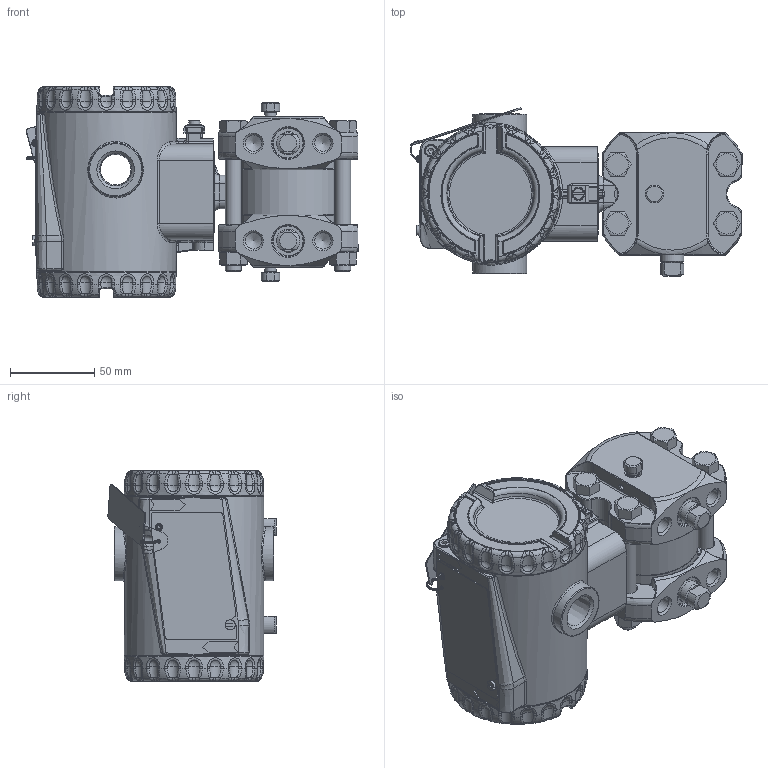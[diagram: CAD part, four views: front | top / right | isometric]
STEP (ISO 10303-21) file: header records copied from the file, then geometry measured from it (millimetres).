
FILE_DESCRIPTION(/* description */ (''),/* implementation_level */ '2;1');
FILE_NAME(/* name */ 'F:\Area\Desenvolvimento_2\Projects\Sensor\projetos\LD400-3d\dimensionais 3D clientes\LD400H5 1-4NPT monel purga acima.stp',/* time_stamp */ '2023-02-02T11:49:55-03:00',/* author */ ('inventor02'),/* organization */ (''),/* preprocessor_version */ 'ST-DEVELOPER v17',/* originating_system */ 'Autodesk Inventor 2019',/* authorisation */ '');
FILE_SCHEMA (('CONFIG_CONTROL_DESIGN'));
Products named in the file (29): LD400H5 1-4NPT monel purga acima; Carcaça 400 com tampas e plaqueta sem letras; 101-D-0845-05 carcaça LD400 sem letras; 101-B-3614-03-tampa 400 sem letras; Tampa visor 400 montada sem letras; 101-B-3612-05 tampa visor 400 sem letras; 101-A-6107; oring 2034; 00034775-0; WHW_250; DIN 915 - M6 x 10; Chapa aterramento externo; 201-A-1771-02 inserto terra recartilhado; AS 1969 - ST4,2; ISO 1207 - M4 x 8; ANSI B18.3.1M - M4x0,7 x 8; Subconjunto plaqueta 400; plaqueta 400 em branco; Parafuso da Plaqueta; Rebite da Plaqueta; 096-A-0169-03; 101-A-0502-01; diferencial FX5 monel purga acima; involucro fx5 apos a usinagem final; bujao 1-4NPT; 081-C-0500-10 monel barra 7-16 purga M8; Paraf. 3-8 x 16 UNC; Porca 3-8 x 16 UNC; Sangria
Assembly tree (38 placements, depth 4):
  LD400H5 1-4NPT monel purga acima
    Carcaça 400 com tampas e plaqueta sem letras
      101-D-0845-05 carcaça LD400 sem letras
      101-B-3614-03-tampa 400 sem letras
      Tampa visor 400 montada sem letras
        101-B-3612-05 tampa visor 400 sem letras
        101-A-6107
        oring 2034
        00034775-0
        WHW_250
      DIN 915 - M6 x 10
      Chapa aterramento externo
      201-A-1771-02 inserto terra recartilhado
      AS 1969 - ST4,2
      ISO 1207 - M4 x 8
      ANSI B18.3.1M - M4x0,7 x 8  x2
      Subconjunto plaqueta 400
        plaqueta 400 em branco
        Parafuso da Plaqueta
        Rebite da Plaqueta
        096-A-0169-03
        101-A-0502-01
    diferencial FX5 monel purga acima
      involucro fx5 apos a usinagem final
      bujao 1-4NPT  x2
      081-C-0500-10 monel barra 7-16 purga M8  x2
      Paraf. 3-8 x 16 UNC  x4
      Porca 3-8 x 16 UNC  x4
      Sangria  x2
Bounding box: 197.25 x 99.89 x 125 mm (x, y, z)
Volume: 669136.6 mm3; surface area: 241490.3 mm2
Topology: 34 solids, 34 shells, 2299 faces, 5669 edges, 3431 vertices
Faces by surface type: plane 609, bspline 529, cylinder 507, torus 354, cone 247, sphere 53
Full cylindrical faces by diameter (mm): 2 x2, 2.1 x1, 2.2 x1, 2.459 x3, 2.7 x1, 3 x5, 3.242 x3, 3.571 x1, 4 x4, 4.3 x2, 4.4 x1, 4.917 x1, 5 x4, 5.5 x2, 6 x2, 6.1 x2, 6.2 x1, 6.647 x2, 7 x4, 7.6 x2, 7.798 x4, 8 x2, 9.525 x4, 9.728 x8, 10.5 x8, 10.719 x4, 12 x2, 13.8 x2, 14 x1, 18.3 x2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
Entity records: 75717 total; most frequent: CARTESIAN_POINT 30440, ORIENTED_EDGE 9496, DIRECTION 9045, EDGE_CURVE 4748, AXIS2_PLACEMENT_3D 3807, VERTEX_POINT 2877, CIRCLE 2191, EDGE_LOOP 2047
